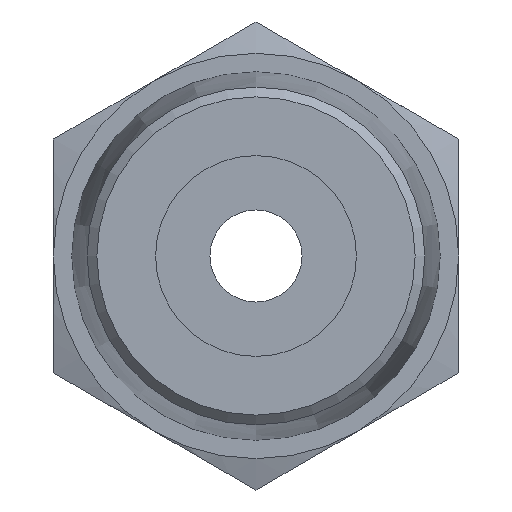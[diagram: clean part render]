
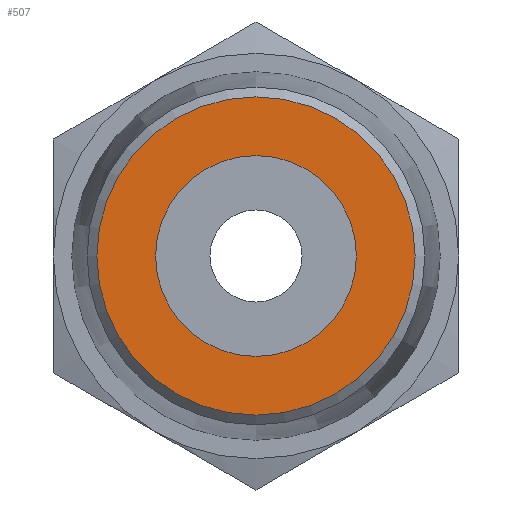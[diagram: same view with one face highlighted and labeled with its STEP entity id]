
A CAD part, front view. The second image highlights one B-rep face of the part: STEP entity #507.
In plain terms, the highlighted planar face has unit normal (0, -1, 0).
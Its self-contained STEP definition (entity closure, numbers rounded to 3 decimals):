
#42=FACE_BOUND('',#107,.T.);
#51=PLANE('',#572);
#68=FACE_OUTER_BOUND('',#106,.T.);
#106=EDGE_LOOP('',(#347));
#107=EDGE_LOOP('',(#348));
#185=CIRCLE('',#567,8.636);
#189=CIRCLE('',#573,5.45);
#218=VERTEX_POINT('',#800);
#222=VERTEX_POINT('',#812);
#263=EDGE_CURVE('',#218,#218,#185,.T.);
#269=EDGE_CURVE('',#222,#222,#189,.T.);
#347=ORIENTED_EDGE('',*,*,#263,.F.);
#348=ORIENTED_EDGE('',*,*,#269,.T.);
#507=ADVANCED_FACE('',(#68,#42),#51,.T.);
#567=AXIS2_PLACEMENT_3D('',#801,#641,#642);
#572=AXIS2_PLACEMENT_3D('',#811,#653,#654);
#573=AXIS2_PLACEMENT_3D('',#813,#655,#656);
#641=DIRECTION('center_axis',(0.,1.,0.));
#642=DIRECTION('ref_axis',(0.,0.,1.));
#653=DIRECTION('center_axis',(0.,-1.,0.));
#654=DIRECTION('ref_axis',(0.,0.,-1.));
#655=DIRECTION('center_axis',(0.,1.,0.));
#656=DIRECTION('ref_axis',(1.,0.,0.));
#800=CARTESIAN_POINT('',(0.,-14.,-8.636));
#801=CARTESIAN_POINT('Origin',(0.,-14.,0.));
#811=CARTESIAN_POINT('Origin',(0.,-14.,0.));
#812=CARTESIAN_POINT('',(-5.45,-14.,0.));
#813=CARTESIAN_POINT('Origin',(0.,-14.,0.));
